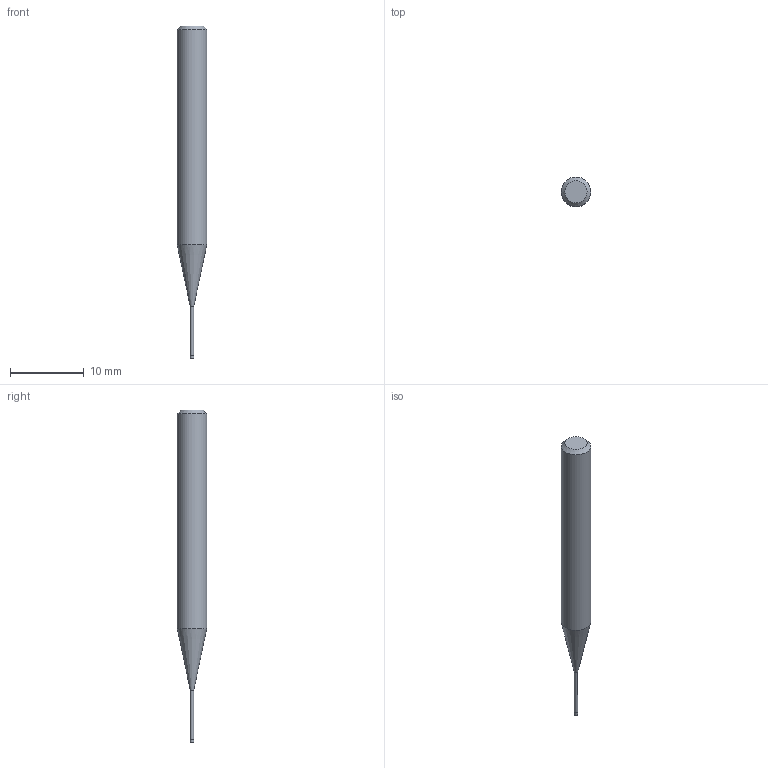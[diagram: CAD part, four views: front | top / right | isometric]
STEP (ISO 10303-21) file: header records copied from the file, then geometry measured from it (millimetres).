
FILE_DESCRIPTION((''),'2;1');
FILE_NAME('C:\Users\nsx150\AppData\Local\Temp\Mastercam 2021\RJ5U8K7RMU\TEMP.step','2021-04-21T16:40:15',(''),(''),'STEP Write','Mastercam 2021 ... CNC Software, Inc.','');
FILE_SCHEMA(('AUTOMOTIVE_DESIGN'));
Length unit declared in the file: millimetre
Products named in the file (1): None
Bounding box: 4 x 4 x 45 mm (x, y, z)
Volume: 412 mm3; surface area: 451.8 mm2
Topology: 2 solids, 2 shells, 9 faces, 12 edges, 7 vertices
Faces by surface type: plane 4, cylinder 3, cone 2
Full cylindrical faces by diameter (mm): 0.46 x1, 0.5 x1, 4 x1
Entity records: 211 total; most frequent: DIRECTION 36, CARTESIAN_POINT 25, AXIS2_PLACEMENT_3D 18, ORIENTED_EDGE 14, EDGE_LOOP 14, STYLED_ITEM 12, ADVANCED_FACE 9, FACE_BOUND 8
